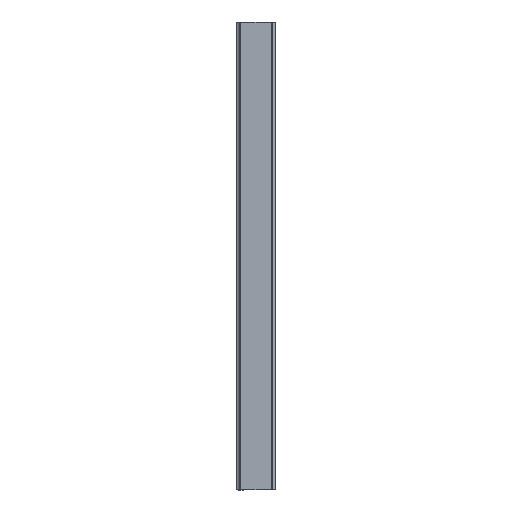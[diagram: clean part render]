
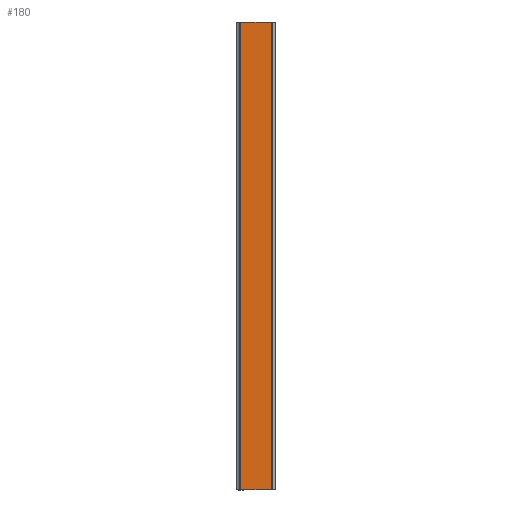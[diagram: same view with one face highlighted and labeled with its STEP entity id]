
A CAD part, top view. The second image highlights one B-rep face of the part: STEP entity #180.
In plain terms, the highlighted planar face has unit normal (0, 0, 1).
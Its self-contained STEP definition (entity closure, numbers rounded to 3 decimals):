
#180=ADVANCED_FACE('',(#417),#418,.T.);
#417=FACE_OUTER_BOUND('',#680,.T.);
#418=PLANE('',#681);
#680=EDGE_LOOP('',(#1632,#1633,#1634,#1635));
#681=AXIS2_PLACEMENT_3D('',#1636,#1637,#1638);
#1632=ORIENTED_EDGE('',*,*,#2067,.T.);
#1633=ORIENTED_EDGE('',*,*,#2118,.F.);
#1634=ORIENTED_EDGE('',*,*,#1961,.T.);
#1635=ORIENTED_EDGE('',*,*,#2117,.T.);
#1636=CARTESIAN_POINT('',(-13.042,400.0,27.5));
#1637=DIRECTION('',(0.0,0.0,1.0));
#1638=DIRECTION('',(-1.0,0.0,0.0));
#1961=EDGE_CURVE('',#2427,#2425,#2428,.T.);
#2067=EDGE_CURVE('',#2618,#2616,#2619,.T.);
#2117=EDGE_CURVE('',#2425,#2618,#2687,.T.);
#2118=EDGE_CURVE('',#2427,#2616,#2688,.T.);
#2425=VERTEX_POINT('',#3140);
#2427=VERTEX_POINT('',#3143);
#2428=LINE('',#3144,#3145);
#2616=VERTEX_POINT('',#3419);
#2618=VERTEX_POINT('',#3422);
#2619=LINE('',#3423,#3424);
#2687=LINE('',#3522,#3523);
#2688=LINE('',#3524,#3525);
#3140=CARTESIAN_POINT('',(-13.042,400.0,27.5));
#3143=CARTESIAN_POINT('',(13.042,400.0,27.5));
#3144=CARTESIAN_POINT('',(13.042,400.0,27.5));
#3145=VECTOR('',#3769,1.0);
#3419=CARTESIAN_POINT('',(13.042,0.0,27.5));
#3422=CARTESIAN_POINT('',(-13.042,0.0,27.5));
#3423=CARTESIAN_POINT('',(13.042,0.0,27.5));
#3424=VECTOR('',#3911,1.0);
#3522=CARTESIAN_POINT('',(-13.042,400.0,27.5));
#3523=VECTOR('',#3999,1.0);
#3524=CARTESIAN_POINT('',(13.042,400.0,27.5));
#3525=VECTOR('',#4000,1.0);
#3769=DIRECTION('',(-1.0,0.0,0.0));
#3911=DIRECTION('',(1.0,0.0,0.0));
#3999=DIRECTION('',(0.0,-1.0,0.0));
#4000=DIRECTION('',(0.0,-1.0,0.0));
